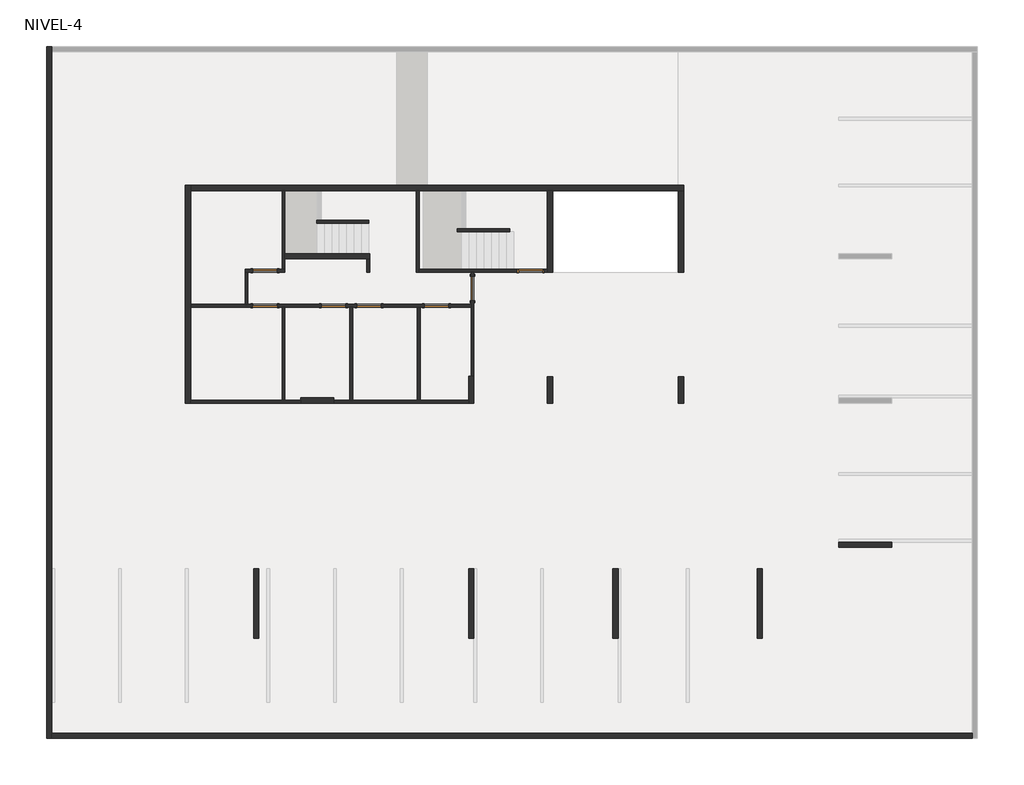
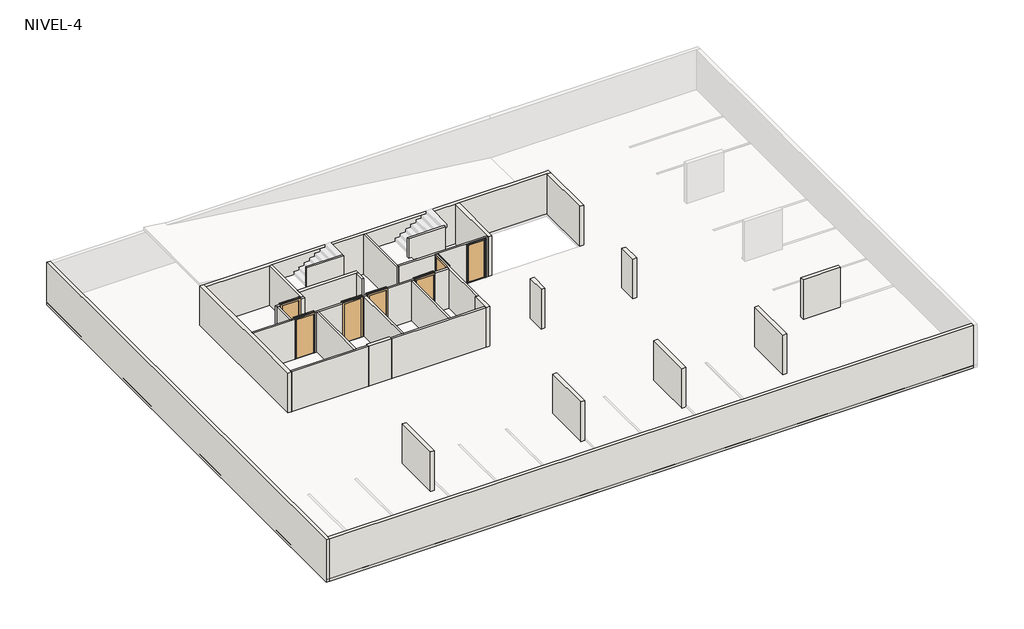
# One storey, part 1 of 2: 31 walls, 7 doors.
"""IFC4 building model written with IfcOpenShell, lengths in millimetres."""

from ifc_helpers import new_model, si_unit, frame, origin, place, context, project, spatial, polyline, outline, extrude, faceted_brep, transform, mapped, element, save
from components import door_90f4172a, m_single_flush_910x_224_031eae0d, m_single_flush_910x_224_b1cae8a4

model = new_model("IFC4")

# Units and contexts
model_context = context("Model", 3, world=origin())
ifc_project = project(units=[si_unit("LENGTHUNIT", "METRE", prefix="MILLI")], contexts=[model_context])

# Site, building, storey
site = spatial("IfcSite", under=ifc_project)
building = spatial("IfcBuilding", under=site)
storey = spatial("IfcBuildingStorey", under=building, Name="NIVEL-4", Elevation=-11700.0)

# Doors
placement = place(None, origin())
door_shape = door_90f4172a(model_context)
element("IfcDoor", 1, ObjectType="PUERTA SEGURIDAD SIMPLE : P600_A(90*220) RF120", at=placement, inside=storey, context=model_context, shape_type="MappedRepresentation", body=[
    mapped(door_shape, transform((-10358.5934748, 9988.9139241, -11700.0), x_axis=(1.0, 0.0, 0.0), y_axis=(0.0, 1.0, 0.0), z_axis=(0.0, 0.0, 1.0))),
])
m_single_flush_910x_224_shape = m_single_flush_910x_224_031eae0d(model_context)
element("IfcDoor", 2, ObjectType="M_Single-Flush : 910x 224", at=placement, inside=storey, context=model_context, shape_type="MappedRepresentation", body=[
    mapped(m_single_flush_910x_224_shape, transform((-17743.5934748, 8678.9139241, -11700.0), x_axis=(1.0, 0.0, 0.0), y_axis=(0.0, 1.0, 0.0), z_axis=(0.0, 0.0, 1.0))),
])
element("IfcDoor", 3, ObjectType="M_Single-Flush : 910x 224", at=placement, inside=storey, context=model_context, shape_type="MappedRepresentation", body=[
    mapped(m_single_flush_910x_224_shape, transform((-12538.5934748, 9333.9139241, -11700.0), x_axis=(0.0, -1.0, 0.0), y_axis=(1.0, 0.0, 0.0), z_axis=(0.0, 0.0, 1.0))),
])
element("IfcDoor", 4, ObjectType="M_Single-Flush : 910x 224", at=placement, inside=storey, context=model_context, shape_type="MappedRepresentation", body=[
    mapped(m_single_flush_910x_224_shape, transform((-20306.2934748, 8678.9139241, -11700.0), x_axis=(1.0, 0.0, 0.0), y_axis=(0.0, 1.0, 0.0), z_axis=(0.0, 0.0, 1.0))),
])
m_single_flush_910x_224_2_shape = m_single_flush_910x_224_b1cae8a4(model_context)
element("IfcDoor", 5, ObjectType="M_Single-Flush : 910x 224", at=placement, inside=storey, context=model_context, shape_type="MappedRepresentation", body=[
    mapped(m_single_flush_910x_224_2_shape, transform((-16418.5934748, 8678.9139241, -11700.0), x_axis=(-1.0, 0.0, 0.0), y_axis=(0.0, -1.0, 0.0), z_axis=(0.0, 0.0, 1.0))),
])
element("IfcDoor", 6, ObjectType="M_Single-Flush : 910x 224", at=placement, inside=storey, context=model_context, shape_type="MappedRepresentation", body=[
    mapped(m_single_flush_910x_224_2_shape, transform((-20306.2934748, 9988.9139241, -11700.0), x_axis=(1.0, 0.0, 0.0), y_axis=(0.0, 1.0, 0.0), z_axis=(0.0, 0.0, 1.0))),
])
element("IfcDoor", 7, ObjectType="M_Single-Flush : 910x 224", at=placement, inside=storey, context=model_context, shape_type="MappedRepresentation", body=[
    mapped(m_single_flush_910x_224_2_shape, transform((-13886.0934748, 8678.9139241, -11700.0), x_axis=(-1.0, 0.0, 0.0), y_axis=(0.0, -1.0, 0.0), z_axis=(0.0, 0.0, 1.0))),
])

# Walls
element("IfcWall", 8, ObjectType="SCV.TI.A.110.090.143.47.1", at=placement, inside=storey, context=model_context, shape_type="Brep", body=[
    faceted_brep([(-19668.5934748, 12984.7139241, -11720.0), (-19668.5934748, 10043.9139241, -11720.0), (-19668.5934748, 10043.9139241, -9470.0), (-19668.5934748, 12984.7139241, -9470.0), (-19558.5934748, 12984.7139241, -11720.0), (-19558.5934748, 12984.7139241, -9470.0), (-19558.5934748, 10633.9139241, -9470.0), (-19558.5934748, 10433.9139241, -9470.0), (-19558.5934748, 10043.9139241, -9470.0), (-19558.5934748, 10043.9139241, -11720.0), (-19558.5934748, 10433.9139241, -11720.0), (-19558.5934748, 10633.9139241, -11720.0)], [[[0, 1, 2, 3]], [[4, 5, 6, 7, 8, 9, 10, 11]], [[1, 0, 4, 11, 10, 9]], [[0, 3, 5, 4]], [[2, 1, 9, 8]], [[3, 2, 8, 7, 6, 5]]]),
])
element("IfcWall", 9, ObjectType="SCV.TI.A.110.090.143.47.1", at=placement, inside=storey, context=model_context, shape_type="Brep", body=[
    faceted_brep([(-18958.5934748, 5143.9139241, -11720.0), (-19558.5934748, 5143.9139241, -11720.0), (-19668.5934748, 5143.9139241, -11720.0), (-23084.3934748, 5143.9139241, -11720.0), (-23084.3934748, 5143.9139241, -9470.0), (-19668.5934748, 5143.9139241, -9470.0), (-19558.5934748, 5143.9139241, -9470.0), (-18958.5934748, 5143.9139241, -9470.0), (-18958.5934748, 5033.9139241, -11720.0), (-18958.5934748, 5033.9139241, -9470.0), (-23084.3934748, 5033.9139241, -9470.0), (-23084.3934748, 5033.9139241, -11720.0)], [[[0, 1, 2, 3, 4, 5, 6, 7]], [[8, 9, 10, 11]], [[3, 2, 1, 0, 8, 11]], [[0, 7, 9, 8]], [[4, 3, 11, 10]], [[7, 6, 5, 4, 10, 9]]]),
])
element("IfcWall", 10, ObjectType="SCV.TI.A.110.120.141.44.1", at=placement, inside=storey, context=model_context, shape_type="Brep", body=[
    faceted_brep([(-14634.3934748, 12984.7139241, -11720.0), (-14634.3934748, 9933.9139241, -11720.0), (-14634.3934748, 9933.9139241, -9470.0), (-14634.3934748, 12984.7139241, -9470.0), (-14524.3934748, 12984.7139241, -11720.0), (-14524.3934748, 12984.7139241, -9470.0), (-14524.3934748, 10043.9139241, -9470.0), (-14524.3934748, 9933.9139241, -9470.0), (-14524.3934748, 9933.9139241, -11720.0), (-14524.3934748, 10043.9139241, -11720.0)], [[[0, 1, 2, 3]], [[4, 5, 6, 7, 8, 9]], [[1, 0, 4, 9, 8]], [[0, 3, 5, 4]], [[2, 1, 8, 7]], [[3, 2, 7, 6, 5]]]),
])
element("IfcWall", 11, ObjectType="SCV.TI.A.110.120.141.44.1", at=placement, inside=storey, context=model_context, shape_type="Brep", body=[
    faceted_brep([(-14524.3934748, 9933.9139241, -11720.0), (-12593.5934748, 9933.9139241, -11720.0), (-12483.5934748, 9933.9139241, -11720.0), (-9733.5934748, 9933.9139241, -11720.0), (-9733.5934748, 9933.9139241, -9470.0), (-12483.5934748, 9933.9139241, -9470.0), (-12593.5934748, 9933.9139241, -9470.0), (-14524.3934748, 9933.9139241, -9470.0), (-9843.5934748, 9933.9139241, -11700.0), (-10873.5934748, 9933.9139241, -11700.0), (-10873.5934748, 9933.9139241, -9500.0), (-9843.5934748, 9933.9139241, -9500.0), (-14524.3934748, 10043.9139241, -11720.0), (-14524.3934748, 10043.9139241, -9470.0), (-11524.4934748, 10043.9139241, -9470.0), (-9733.5934748, 10043.9139241, -9470.0), (-9733.5934748, 10043.9139241, -11720.0), (-9843.5934748, 10043.9139241, -11700.0), (-9843.5934748, 10043.9139241, -9500.0), (-10873.5934748, 10043.9139241, -9500.0), (-10873.5934748, 10043.9139241, -11700.0)], [[[0, 1, 2, 3, 4, 5, 6, 7], [8, 9, 10, 11]], [[12, 13, 14, 15, 16], [17, 18, 19, 20]], [[3, 2, 1, 0, 12, 16]], [[0, 7, 13, 12]], [[4, 3, 16, 15]], [[7, 6, 5, 4, 15, 14, 13]], [[18, 17, 8, 11]], [[19, 18, 11, 10]], [[20, 19, 10, 9]], [[17, 20, 9, 8]]]),
])
element("IfcWall", 12, ObjectType="SCV.TI.A.110.090.143.47.1", at=placement, inside=storey, context=model_context, shape_type="Brep", body=[
    faceted_brep([(-17733.587274, 5033.9139241, -11720.0), (-12683.5934748, 5033.9139241, -11720.0), (-12683.5934748, 5033.9139241, -9470.0), (-17733.587274, 5033.9139241, -9470.0), (-17733.587274, 5143.9139241, -11720.0), (-17733.587274, 5143.9139241, -9470.0), (-17136.0934748, 5143.9139241, -9470.0), (-17026.0934748, 5143.9139241, -9470.0), (-14603.5934748, 5143.9139241, -9470.0), (-14493.5934748, 5143.9139241, -9470.0), (-12683.5934748, 5143.9139241, -9470.0), (-12683.5934748, 5143.9139241, -11720.0), (-14493.5934748, 5143.9139241, -11720.0), (-14603.5934748, 5143.9139241, -11720.0), (-17026.0934748, 5143.9139241, -11720.0), (-17136.0934748, 5143.9139241, -11720.0)], [[[0, 1, 2, 3]], [[4, 5, 6, 7, 8, 9, 10, 11, 12, 13, 14, 15]], [[1, 0, 4, 15, 14, 13, 12, 11]], [[0, 3, 5, 4]], [[2, 1, 11, 10]], [[3, 2, 10, 9, 8, 7, 6, 5]]]),
])
element("IfcWall", 13, ObjectType="SCV.TI.A.110.090.143.47.1", at=placement, inside=storey, context=model_context, shape_type="Brep", body=[
    faceted_brep([(-12593.5934748, 9933.9139241, -11720.0), (-12593.5934748, 8733.9139241, -11720.0), (-12593.5934748, 8623.9139241, -11720.0), (-12593.5934748, 6033.9139241, -11720.0), (-12593.5934748, 6033.9139241, -9470.0), (-12593.5934748, 8623.9139241, -9470.0), (-12593.5934748, 8733.9139241, -9470.0), (-12593.5934748, 9933.9139241, -9470.0), (-12593.5934748, 9791.4139241, -11700.0), (-12593.5934748, 9791.4139241, -9500.0), (-12593.5934748, 8876.4139241, -9500.0), (-12593.5934748, 8876.4139241, -11700.0), (-12483.5934748, 9933.9139241, -11720.0), (-12483.5934748, 9933.9139241, -9470.0), (-12483.5934748, 6033.9139241, -9470.0), (-12483.5934748, 6033.9139241, -11720.0), (-12483.5934748, 9791.4139241, -11700.0), (-12483.5934748, 8876.4139241, -11700.0), (-12483.5934748, 8876.4139241, -9500.0), (-12483.5934748, 9791.4139241, -9500.0)], [[[0, 1, 2, 3, 4, 5, 6, 7], [8, 9, 10, 11]], [[12, 13, 14, 15], [16, 17, 18, 19]], [[3, 2, 1, 0, 12, 15]], [[4, 3, 15, 14]], [[0, 7, 13, 12]], [[17, 16, 8, 11]], [[18, 17, 11, 10]], [[19, 18, 10, 9]], [[16, 19, 9, 8]], [[7, 6, 5, 4, 14, 13]]]),
])
element("IfcWall", 14, ObjectType="SCV.TI.A.110.090.143.47.1", at=placement, inside=storey, context=model_context, shape_type="Brep", body=[
    faceted_brep([(-12593.5934748, 8733.9139241, -11720.0), (-20943.9934748, 8733.9139241, -11720.0), (-21053.9934748, 8733.9139241, -11720.0), (-23084.3934748, 8733.9139241, -11720.0), (-23084.3934748, 8733.9139241, -9470.0), (-21053.9934748, 8733.9139241, -9470.0), (-20943.9934748, 8733.9139241, -9470.0), (-12593.5934748, 8733.9139241, -9470.0), (-15961.0934748, 8733.9139241, -11700.0), (-15961.0934748, 8733.9139241, -9500.0), (-16876.0934748, 8733.9139241, -9500.0), (-16876.0934748, 8733.9139241, -11700.0), (-18201.0934748, 8733.9139241, -11700.0), (-17286.0934748, 8733.9139241, -11700.0), (-17286.0934748, 8733.9139241, -9500.0), (-18201.0934748, 8733.9139241, -9500.0), (-20763.7934748, 8733.9139241, -11700.0), (-19848.7934748, 8733.9139241, -11700.0), (-19848.7934748, 8733.9139241, -9500.0), (-20763.7934748, 8733.9139241, -9500.0), (-13428.5934748, 8733.9139241, -11700.0), (-13428.5934748, 8733.9139241, -9500.0), (-14343.5934748, 8733.9139241, -9500.0), (-14343.5934748, 8733.9139241, -11700.0), (-12593.5934748, 8623.9139241, -11720.0), (-12593.5934748, 8623.9139241, -9470.0), (-14493.5934748, 8623.9139241, -9470.0), (-14603.5934748, 8623.9139241, -9470.0), (-17026.0934748, 8623.9139241, -9470.0), (-17136.0934748, 8623.9139241, -9470.0), (-19558.5934748, 8623.9139241, -9470.0), (-19668.5934748, 8623.9139241, -9470.0), (-23084.3934748, 8623.9139241, -9470.0), (-23084.3934748, 8623.9139241, -11720.0), (-19668.5934748, 8623.9139241, -11720.0), (-19558.5934748, 8623.9139241, -11720.0), (-17136.0934748, 8623.9139241, -11720.0), (-17026.0934748, 8623.9139241, -11720.0), (-14603.5934748, 8623.9139241, -11720.0), (-14493.5934748, 8623.9139241, -11720.0), (-15961.0934748, 8623.9139241, -11700.0), (-16876.0934748, 8623.9139241, -11700.0), (-16876.0934748, 8623.9139241, -9500.0), (-15961.0934748, 8623.9139241, -9500.0), (-18201.0934748, 8623.9139241, -11700.0), (-18201.0934748, 8623.9139241, -9500.0), (-17286.0934748, 8623.9139241, -9500.0), (-17286.0934748, 8623.9139241, -11700.0), (-20763.7934748, 8623.9139241, -11700.0), (-20763.7934748, 8623.9139241, -9500.0), (-19848.7934748, 8623.9139241, -9500.0), (-19848.7934748, 8623.9139241, -11700.0), (-13428.5934748, 8623.9139241, -11700.0), (-14343.5934748, 8623.9139241, -11700.0), (-14343.5934748, 8623.9139241, -9500.0), (-13428.5934748, 8623.9139241, -9500.0)], [[[0, 1, 2, 3, 4, 5, 6, 7], [8, 9, 10, 11], [12, 13, 14, 15], [16, 17, 18, 19], [20, 21, 22, 23]], [[24, 25, 26, 27, 28, 29, 30, 31, 32, 33, 34, 35, 36, 37, 38, 39], [40, 41, 42, 43], [44, 45, 46, 47], [48, 49, 50, 51], [52, 53, 54, 55]], [[3, 2, 1, 0, 24, 39, 38, 37, 36, 35, 34, 33]], [[0, 7, 25, 24]], [[41, 40, 8, 11]], [[42, 41, 11, 10]], [[43, 42, 10, 9]], [[40, 43, 9, 8]], [[13, 12, 44, 47]], [[14, 13, 47, 46]], [[15, 14, 46, 45]], [[12, 15, 45, 44]], [[17, 16, 48, 51]], [[18, 17, 51, 50]], [[19, 18, 50, 49]], [[16, 19, 49, 48]], [[7, 6, 5, 4, 32, 31, 30, 29, 28, 27, 26, 25]], [[53, 52, 20, 23]], [[54, 53, 23, 22]], [[55, 54, 22, 21]], [[52, 55, 21, 20]], [[4, 3, 33, 32]]]),
])
element("IfcWall", 15, ObjectType="SCV.TI.A.110.090.143.47.1", at=placement, inside=storey, context=model_context, shape_type="SweptSolid", body=[
    extrude(outline(polyline([(-16500.9886074, 9931.7350305), (-16500.9886074, 10433.9139241), (-16390.9886074, 10433.9139241), (-16390.9886074, 9931.7350305), (-16500.9886074, 9931.7350305)])), frame((0.0, 0.0, -11720.0), z_axis=(0.0, 0.0, 1.0), x_axis=(1.0, 0.0, 0.0)), (0.0, 0.0, 1.0), 2250.0),
])
element("IfcWall", 16, ObjectType="SCV.TI.A.110.090.143.47.1", at=placement, inside=storey, context=model_context, shape_type="SweptSolid", body=[
    extrude(outline(polyline([(-17136.0934748, 5143.9139241), (-17136.0934748, 8623.9139241), (-17026.0934748, 8623.9139241), (-17026.0934748, 5143.9139241), (-17136.0934748, 5143.9139241)])), frame((0.0, 0.0, -11720.0), z_axis=(0.0, 0.0, 1.0), x_axis=(1.0, 0.0, 0.0)), (0.0, 0.0, 1.0), 2250.0),
])
element("IfcWall", 17, ObjectType="SCV.TI.A.110.090.143.47.1", at=placement, inside=storey, context=model_context, shape_type="Brep", body=[
    faceted_brep([(-19558.5934748, 10043.9139241, -11720.0), (-19668.5934748, 10043.9139241, -11720.0), (-21053.9934748, 10043.9139241, -11720.0), (-21053.9934748, 10043.9139241, -9470.0), (-19668.5934748, 10043.9139241, -9470.0), (-19558.5934748, 10043.9139241, -9470.0), (-20763.7934748, 10043.9139241, -11700.0), (-19848.7934748, 10043.9139241, -11700.0), (-19848.7934748, 10043.9139241, -9500.0), (-20763.7934748, 10043.9139241, -9500.0), (-19558.5934748, 9933.9139241, -11720.0), (-19558.5934748, 9933.9139241, -9470.0), (-20943.9934748, 9933.9139241, -9470.0), (-21053.9934748, 9933.9139241, -9470.0), (-21053.9934748, 9933.9139241, -11720.0), (-20943.9934748, 9933.9139241, -11720.0), (-20763.7934748, 9933.9139241, -11700.0), (-20763.7934748, 9933.9139241, -9500.0), (-19848.7934748, 9933.9139241, -9500.0), (-19848.7934748, 9933.9139241, -11700.0)], [[[0, 1, 2, 3, 4, 5], [6, 7, 8, 9]], [[10, 11, 12, 13, 14, 15], [16, 17, 18, 19]], [[2, 1, 0, 10, 15, 14]], [[3, 2, 14, 13]], [[0, 5, 11, 10]], [[7, 6, 16, 19]], [[8, 7, 19, 18]], [[9, 8, 18, 17]], [[6, 9, 17, 16]], [[5, 4, 3, 13, 12, 11]]]),
])
element("IfcWall", 18, ObjectType="SCV.TI.A.110.090.143.47.1", at=placement, inside=storey, context=model_context, shape_type="SweptSolid", body=[
    extrude(outline(polyline([(-21053.9934748, 8733.9139241), (-21053.9934748, 9933.9139241), (-20943.9934748, 9933.9139241), (-20943.9934748, 8733.9139241), (-21053.9934748, 8733.9139241)])), frame((0.0, 0.0, -11720.0), z_axis=(0.0, 0.0, 1.0), x_axis=(1.0, 0.0, 0.0)), (0.0, 0.0, 1.0), 2250.0),
])
element("IfcWall", 19, ObjectType="SCV.TI.A.110.090.143.47.1", at=placement, inside=storey, context=model_context, shape_type="SweptSolid", body=[
    extrude(outline(polyline([(-19668.5934748, 5143.9139241), (-19668.5934748, 8623.9139241), (-19558.5934748, 8623.9139241), (-19558.5934748, 5143.9139241), (-19668.5934748, 5143.9139241)])), frame((0.0, 0.0, -11720.0), z_axis=(0.0, 0.0, 1.0), x_axis=(1.0, 0.0, 0.0)), (0.0, 0.0, 1.0), 2250.0),
])
element("IfcWall", 20, ObjectType="SCV.TI.A.110.090.143.47.1", at=placement, inside=storey, context=model_context, shape_type="SweptSolid", body=[
    extrude(outline(polyline([(-16415.8934748, 11766.6139241), (-18375.8934748, 11766.6139241), (-18375.8934748, 11876.6139241), (-16415.8934748, 11876.6139241), (-16415.8934748, 11766.6139241)])), frame((0.0, 0.0, -11720.0), z_axis=(0.0, 0.0, 1.0), x_axis=(1.0, 0.0, 0.0)), (0.0, 0.0, 1.0), 2400.0),
])
element("IfcWall", 21, ObjectType="SCV.TI.A.110.090.143.47.1", at=placement, inside=storey, context=model_context, shape_type="SweptSolid", body=[
    extrude(outline(polyline([(-14603.5934748, 5143.9139241), (-14603.5934748, 8623.9139241), (-14493.5934748, 8623.9139241), (-14493.5934748, 5143.9139241), (-14603.5934748, 5143.9139241)])), frame((0.0, 0.0, -11720.0), z_axis=(0.0, 0.0, 1.0), x_axis=(1.0, 0.0, 0.0)), (0.0, 0.0, 1.0), 2250.0),
])
element("IfcWall", 22, ObjectType="SCV.TI.A.110.090.143.47.1", at=placement, inside=storey, context=model_context, shape_type="SweptSolid", body=[
    extrude(outline(polyline([(-11148.9934748, 11459.3139241), (-13108.9934748, 11459.3139241), (-13108.9934748, 11569.3139241), (-11148.9934748, 11569.3139241), (-11148.9934748, 11459.3139241)])), frame((0.0, 0.0, -11720.0), z_axis=(0.0, 0.0, 1.0), x_axis=(1.0, 0.0, 0.0)), (0.0, 0.0, 1.0), 2400.0),
])
element("IfcWall", 23, ObjectType="HA-200mm", at=placement, inside=storey, context=model_context, shape_type="Brep", body=[
    faceted_brep([(-28284.3934748, -7516.0860759, -11870.0), (-28284.3934748, -7316.0860759, -11870.0), (-28284.3934748, 18184.7139241, -11870.0), (-28284.3934748, 18384.7139241, -11870.0), (-28284.3934748, 18384.7139241, -9470.0), (-28284.3934748, 18184.7139241, -9470.0), (-28284.3934748, -7316.0860759, -9470.0), (-28284.3934748, -7516.0860759, -9470.0), (-28484.3934748, -7516.0860759, -11870.0), (-28484.3934748, -7516.0860759, -9470.0), (-28484.3934748, 18384.7139241, -9470.0), (-28484.3934748, 18384.7139241, -11870.0)], [[[0, 1, 2, 3, 4, 5, 6, 7]], [[8, 9, 10, 11]], [[3, 2, 1, 0, 8, 11]], [[4, 3, 11, 10]], [[0, 7, 9, 8]], [[7, 6, 5, 4, 10, 9]]]),
])
element("IfcWall", 24, ObjectType="HA-200mm", at=placement, inside=storey, context=model_context, shape_type="SweptSolid", body=[
    extrude(outline(polyline([(-28284.3934748, -7316.0860759), (6166.4065252, -7316.0860759), (6166.4065252, -7516.0860759), (-28284.3934748, -7516.0860759), (-28284.3934748, -7316.0860759)])), frame((0.0, 0.0, -11870.0), z_axis=(0.0, 0.0, 1.0), x_axis=(1.0, 0.0, 0.0)), (0.0, 0.0, 1.0), 2400.0),
])
element("IfcWall", 25, ObjectType="HA-200mm", at=placement, inside=storey, context=model_context, shape_type="Brep", body=[
    faceted_brep([(-23084.3934748, 5033.9139241, -11720.0), (-23084.3934748, 5143.9139241, -11720.0), (-23084.3934748, 8623.9139241, -11720.0), (-23084.3934748, 8733.9139241, -11720.0), (-23084.3934748, 12984.7139241, -11720.0), (-23084.3934748, 13184.7139241, -11720.0), (-23084.3934748, 13184.7139241, -9470.0), (-23084.3934748, 12984.7139241, -9470.0), (-23084.3934748, 8733.9139241, -9470.0), (-23084.3934748, 8623.9139241, -9470.0), (-23084.3934748, 5143.9139241, -9470.0), (-23084.3934748, 5033.9139241, -9470.0), (-23284.3934748, 5033.9139241, -11720.0), (-23284.3934748, 5033.9139241, -9470.0), (-23284.3934748, 13184.7139241, -9470.0), (-23284.3934748, 13184.7139241, -11720.0)], [[[0, 1, 2, 3, 4, 5, 6, 7, 8, 9, 10, 11]], [[12, 13, 14, 15]], [[5, 4, 3, 2, 1, 0, 12, 15]], [[6, 5, 15, 14]], [[0, 11, 13, 12]], [[11, 10, 9, 8, 7, 6, 14, 13]]]),
])
element("IfcWall", 26, ObjectType="HA-200mm", at=placement, inside=storey, context=model_context, shape_type="Brep", body=[
    faceted_brep([(-23084.3934748, 12984.7139241, -11720.0), (-19668.5934748, 12984.7139241, -11720.0), (-19558.5934748, 12984.7139241, -11720.0), (-14634.3934748, 12984.7139241, -11720.0), (-14524.3934748, 12984.7139241, -11720.0), (-9733.5934748, 12984.7139241, -11720.0), (-9533.5934748, 12984.7139241, -11720.0), (-4833.5934748, 12984.7139241, -11720.0), (-4633.5934748, 12984.7139241, -11720.0), (-4633.5934748, 12984.7139241, -9470.0), (-4833.5934748, 12984.7139241, -9470.0), (-9533.5934748, 12984.7139241, -9470.0), (-9733.5934748, 12984.7139241, -9470.0), (-11223.9934748, 12984.7139241, -9470.0), (-14524.3934748, 12984.7139241, -9470.0), (-14634.3934748, 12984.7139241, -9470.0), (-16415.8934748, 12984.7139241, -9470.0), (-19558.5934748, 12984.7139241, -9470.0), (-19668.5934748, 12984.7139241, -9470.0), (-23084.3934748, 12984.7139241, -9470.0), (-23084.3934748, 13184.7139241, -11720.0), (-23084.3934748, 13184.7139241, -9470.0), (-4833.5934748, 13184.7139241, -9470.0), (-4633.5934748, 13184.7139241, -9470.0), (-4633.5934748, 13184.7139241, -11720.0)], [[[0, 1, 2, 3, 4, 5, 6, 7, 8, 9, 10, 11, 12, 13, 14, 15, 16, 17, 18, 19]], [[20, 21, 22, 23, 24]], [[8, 7, 6, 5, 4, 3, 2, 1, 0, 20, 24]], [[0, 19, 21, 20]], [[9, 8, 24, 23]], [[19, 18, 17, 16, 15, 14, 13, 12, 11, 10, 9, 23, 22, 21]]]),
])
element("IfcWall", 27, ObjectType="HA-200mm", at=placement, inside=storey, context=model_context, shape_type="SweptSolid", body=[
    extrude(outline(polyline([(-4833.5934748, 9933.9139241), (-4833.5934748, 12984.7139241), (-4633.5934748, 12984.7139241), (-4633.5934748, 9933.9139241), (-4833.5934748, 9933.9139241)])), frame((0.0, 0.0, -11720.0), z_axis=(0.0, 0.0, 1.0), x_axis=(1.0, 0.0, 0.0)), (0.0, 0.0, 1.0), 2250.0),
])
element("IfcWall", 28, ObjectType="HA-200mm", at=placement, inside=storey, context=model_context, shape_type="Brep", body=[
    faceted_brep([(-9533.5934748, 9933.9139241, -11720.0), (-9533.5934748, 12984.7139241, -11720.0), (-9533.5934748, 12984.7139241, -9470.0), (-9533.5934748, 9933.9139241, -9470.0), (-9733.5934748, 9933.9139241, -11720.0), (-9733.5934748, 9933.9139241, -9470.0), (-9733.5934748, 10043.9139241, -9470.0), (-9733.5934748, 12984.7139241, -9470.0), (-9733.5934748, 12984.7139241, -11720.0), (-9733.5934748, 10043.9139241, -11720.0)], [[[0, 1, 2, 3]], [[4, 5, 6, 7, 8, 9]], [[1, 0, 4, 9, 8]], [[0, 3, 5, 4]], [[2, 1, 8, 7]], [[3, 2, 7, 6, 5]]]),
])
element("IfcWall", 29, ObjectType="HA-200mm", at=placement, inside=storey, context=model_context, shape_type="Brep", body=[
    faceted_brep([(-19558.5934748, 10433.9139241, -11720.0), (-16500.9886074, 10433.9139241, -11720.0), (-16390.9886074, 10433.9139241, -11720.0), (-16390.9886074, 10433.9139241, -9470.0), (-16500.9886074, 10433.9139241, -9470.0), (-19558.5934748, 10433.9139241, -9470.0), (-19558.5934748, 10633.9139241, -11720.0), (-19558.5934748, 10633.9139241, -9470.0), (-16716.3934748, 10633.9139241, -9470.0), (-16390.9886074, 10633.9139241, -9470.0), (-16390.9886074, 10633.9139241, -11720.0)], [[[0, 1, 2, 3, 4, 5]], [[6, 7, 8, 9, 10]], [[2, 1, 0, 6, 10]], [[0, 5, 7, 6]], [[3, 2, 10, 9]], [[5, 4, 3, 9, 8, 7]]]),
])
element("IfcWall", 30, ObjectType="HA-200mm", at=placement, inside=storey, context=model_context, shape_type="Brep", body=[
    faceted_brep([(-18958.5934748, 5033.9139241, -11720.0), (-17733.587274, 5033.9139241, -11720.0), (-17733.587274, 5033.9139241, -9470.0), (-18958.5934748, 5033.9139241, -9470.0), (-18958.5934748, 5233.9139241, -11720.0), (-18958.5934748, 5233.9139241, -9470.0), (-17733.587274, 5233.9139241, -9470.0), (-17733.587274, 5233.9139241, -11720.0), (-18958.5934748, 5143.9139241, -11720.0), (-17733.587274, 5143.9139241, -11720.0), (-17733.587274, 5143.9139241, -9470.0), (-18958.5934748, 5143.9139241, -9470.0)], [[[0, 1, 2, 3]], [[4, 5, 6, 7]], [[1, 0, 8, 4, 7, 9]], [[2, 1, 9, 7, 6, 10]], [[0, 3, 11, 5, 4, 8]], [[3, 2, 10, 6, 5, 11]]]),
])
element("IfcWall", 31, ObjectType="HA-200mm", at=placement, inside=storey, context=model_context, shape_type="Brep", body=[
    faceted_brep([(-12483.5934748, 5033.9139241, -11720.0), (-12483.5934748, 6033.9139241, -11720.0), (-12483.5934748, 6033.9139241, -9470.0), (-12483.5934748, 5033.9139241, -9470.0), (-12683.5934748, 5033.9139241, -11720.0), (-12683.5934748, 5033.9139241, -9470.0), (-12683.5934748, 5143.9139241, -9470.0), (-12683.5934748, 6033.9139241, -9470.0), (-12683.5934748, 6033.9139241, -11720.0), (-12683.5934748, 5143.9139241, -11720.0), (-12593.5934748, 6033.9139241, -11720.0), (-12593.5934748, 6033.9139241, -9470.0)], [[[0, 1, 2, 3]], [[4, 5, 6, 7, 8, 9]], [[1, 0, 4, 9, 8, 10]], [[2, 1, 10, 8, 7, 11]], [[0, 3, 5, 4]], [[3, 2, 11, 7, 6, 5]]]),
])
element("IfcWall", 32, ObjectType="HA-200mm", at=placement, inside=storey, context=model_context, shape_type="SweptSolid", body=[
    extrude(outline(polyline([(-12683.5934748, -3766.0860759), (-12683.5934748, -1166.0860759), (-12483.5934748, -1166.0860759), (-12483.5934748, -3766.0860759), (-12683.5934748, -3766.0860759)])), frame((0.0, 0.0, -11720.0), z_axis=(0.0, 0.0, 1.0), x_axis=(1.0, 0.0, 0.0)), (0.0, 0.0, 1.0), 2250.0),
])
element("IfcWall", 33, ObjectType="HA-200mm", at=placement, inside=storey, context=model_context, shape_type="SweptSolid", body=[
    extrude(outline(polyline([(-7283.5996757, -3766.0860759), (-7283.5996757, -1166.0860759), (-7083.5996757, -1166.0860759), (-7083.5996757, -3766.0860759), (-7283.5996757, -3766.0860759)])), frame((0.0, 0.0, -11720.0), z_axis=(0.0, 0.0, 1.0), x_axis=(1.0, 0.0, 0.0)), (0.0, 0.0, 1.0), 2250.0),
])
element("IfcWall", 34, ObjectType="HA-200mm", at=placement, inside=storey, context=model_context, shape_type="SweptSolid", body=[
    extrude(outline(polyline([(-1883.5996757, -3766.0860759), (-1883.5996757, -1166.0860759), (-1683.5996757, -1166.0860759), (-1683.5996757, -3766.0860759), (-1883.5996757, -3766.0860759)])), frame((0.0, 0.0, -11720.0), z_axis=(0.0, 0.0, 1.0), x_axis=(1.0, 0.0, 0.0)), (0.0, 0.0, 1.0), 2250.0),
])
element("IfcWall", 35, ObjectType="HA-200mm", at=placement, inside=storey, context=model_context, shape_type="SweptSolid", body=[
    extrude(outline(polyline([(3166.4065252, -366.0860759), (1166.4065252, -366.0860759), (1166.4065252, -166.0860759), (3166.4065252, -166.0860759), (3166.4065252, -366.0860759)])), frame((0.0, 0.0, -11720.0), z_axis=(0.0, 0.0, 1.0), x_axis=(1.0, 0.0, 0.0)), (0.0, 0.0, 1.0), 2250.0),
])
element("IfcWall", 36, ObjectType="HA-200mm", at=placement, inside=storey, context=model_context, shape_type="SweptSolid", body=[
    extrude(outline(polyline([(-20733.5934748, -3766.0860759), (-20733.5934748, -1166.0860759), (-20533.5934748, -1166.0860759), (-20533.5934748, -3766.0860759), (-20733.5934748, -3766.0860759)])), frame((0.0, 0.0, -11720.0), z_axis=(0.0, 0.0, 1.0), x_axis=(1.0, 0.0, 0.0)), (0.0, 0.0, 1.0), 2250.0),
])
element("IfcWall", 37, ObjectType="HA-200mm", at=placement, inside=storey, context=model_context, shape_type="SweptSolid", body=[
    extrude(outline(polyline([(-4833.5934748, 5024.0265595), (-4833.5934748, 6024.0265595), (-4633.5934748, 6024.0265595), (-4633.5934748, 5024.0265595), (-4833.5934748, 5024.0265595)])), frame((0.0, 0.0, -11720.0), z_axis=(0.0, 0.0, 1.0), x_axis=(1.0, 0.0, 0.0)), (0.0, 0.0, 1.0), 2250.0),
])
element("IfcWall", 38, ObjectType="HA-200mm", at=placement, inside=storey, context=model_context, shape_type="SweptSolid", body=[
    extrude(outline(polyline([(-9733.5934748, 5024.0265595), (-9733.5934748, 6024.0265595), (-9533.5934748, 6024.0265595), (-9533.5934748, 5024.0265595), (-9733.5934748, 5024.0265595)])), frame((0.0, 0.0, -11720.0), z_axis=(0.0, 0.0, 1.0), x_axis=(1.0, 0.0, 0.0)), (0.0, 0.0, 1.0), 2250.0),
])

save(model, "model.ifc")
